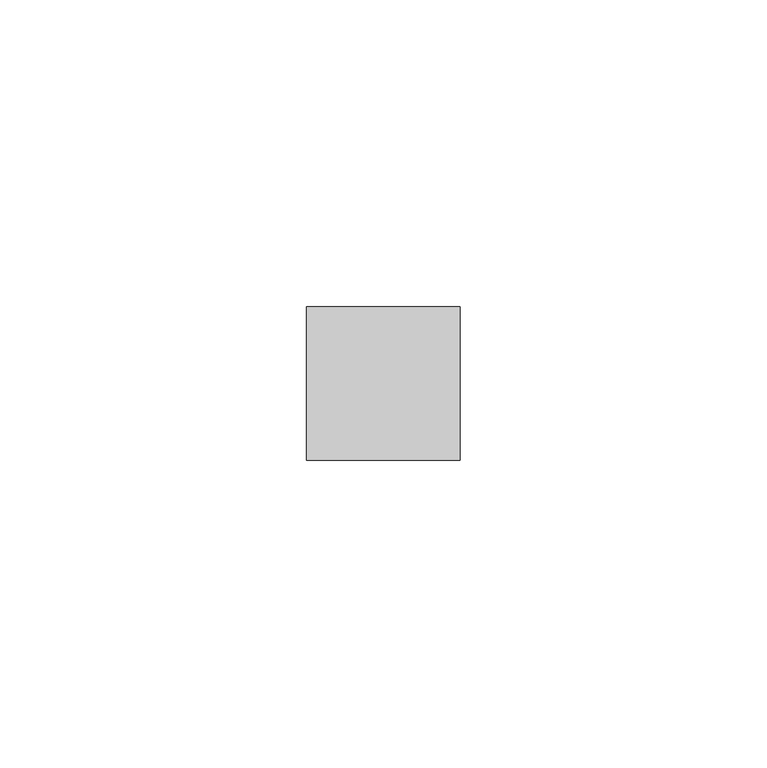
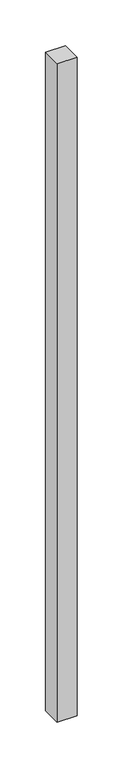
"""IFC4 building model written with IfcOpenShell, lengths in millimetres: member geometry, Obdélníková příčel : VERTI AERO."""

import ifcopenshell
import ifcopenshell.guid

model = None  # the IFC model being written
_history = None  # IfcOwnerHistory: only IFC2X3 demands one
_inside = {}  # id of a spatial element -> (the spatial element, [elements in it])
_under = {}  # id of a project, library or spatial element -> (it, [spatial elements below it])
_declared = {}  # id of a project -> (the project, [libraries it declares])
_typed = {}  # id of a type object -> (the type object, [elements of that type])
_made_of = {}  # id of a material, layer set ... -> (it, [elements and type objects made of it])


def new_model(schema):
    """Start an empty IFC model of exactly this schema.

    Asked for "IFC4X3", IfcOpenShell would pick the latest addendum, in which some entities
    have other attributes; the version numbers below select the first issue.
    IFC2X3 requires an IfcOwnerHistory on every rooted entity: one is made here for all.
    """
    global model, _history
    if schema == "IFC4X3":
        model = ifcopenshell.file(schema_version=(4, 3, 0, 0))
    else:
        model = ifcopenshell.file(schema=schema)
    _inside.clear()
    _under.clear()
    _declared.clear()
    _typed.clear()
    _made_of.clear()
    _history = None
    if model.schema == "IFC2X3":
        org = make("IfcOrganization", Name="unknown")
        user = make(
            "IfcPersonAndOrganization",
            ThePerson=make("IfcPerson", FamilyName="unknown"),
            TheOrganization=org,
        )
        app = make(
            "IfcApplication",
            ApplicationDeveloper=org,
            Version="unknown",
            ApplicationFullName="unknown",
            ApplicationIdentifier="unknown",
        )
        _history = make(
            "IfcOwnerHistory",
            OwningUser=user,
            OwningApplication=app,
            ChangeAction="ADDED",
            CreationDate=0,
        )
    return model


def make(cls, **values):
    """One entity of the class cls with the attributes given. An attribute that is None is left unset."""
    return model.create_entity(
        cls, **{name: value for name, value in values.items() if value is not None}
    )


def rooted(cls, **values):
    """An entity with a GlobalId (a new one), such as an element, a storey or a relation."""
    return make(cls, GlobalId=ifcopenshell.guid.new(), OwnerHistory=_history, **values)


def si_unit(unit_type, name, prefix=None):
    """IfcSIUnit, for example si_unit("LENGTHUNIT", "METRE", prefix="MILLI")."""
    return make("IfcSIUnit", UnitType=unit_type, Prefix=prefix, Name=name)


def assignment(units):
    """IfcUnitAssignment: the units of a project."""
    return None if units is None else make("IfcUnitAssignment", Units=units)


def point(xyz):
    """IfcCartesianPoint."""
    return None if xyz is None else make("IfcCartesianPoint", Coordinates=xyz)


def direction(xyz):
    """IfcDirection."""
    return None if xyz is None else make("IfcDirection", DirectionRatios=xyz)


def frame(location, z_axis=None, x_axis=None):
    """IfcAxis2Placement3D, a coordinate frame: its origin and axes. An axis left out is left unset."""
    return make(
        "IfcAxis2Placement3D",
        Location=point(location),
        Axis=direction(z_axis),
        RefDirection=direction(x_axis),
    )


def origin():
    """The frame at (0, 0, 0) with its axes left unset."""
    return frame((0.0, 0.0, 0.0))


def place(relative_to, where):
    """IfcLocalPlacement: puts the frame where relative to a parent placement (None: the world)."""
    return make(
        "IfcLocalPlacement", PlacementRelTo=relative_to, RelativePlacement=where
    )


def context(
    kind, dimensions, precision=None, world=None, true_north=None, identifier=None
):
    """IfcGeometricRepresentationContext, for example the 3D "Model" context."""
    return make(
        "IfcGeometricRepresentationContext",
        ContextIdentifier=identifier,
        ContextType=kind,
        CoordinateSpaceDimension=dimensions,
        Precision=precision,
        WorldCoordinateSystem=world,
        TrueNorth=true_north,
    )


def project(units=None, contexts=None):
    """IfcProject with its units and contexts."""
    return rooted(
        "IfcProject",
        Name="project",
        RepresentationContexts=contexts,
        UnitsInContext=assignment(units),
    )


def spatial(cls, under=None, at=None, **own):
    """A site, building, storey or space (cls), placed at a placement, below another one or the project."""
    s = rooted(cls, ObjectPlacement=at, **own)
    if under is not None:
        _under.setdefault(under.id(), (under, []))[1].append(s)
    return s


def polyline(points):
    """IfcPolyline through the points."""
    return make("IfcPolyline", Points=[point(p) for p in points])


def outline(outer, holes=None, kind="AREA"):
    """IfcArbitraryClosedProfileDef: a profile drawn as a closed curve; with holes, ...WithVoids."""
    if holes is None:
        return make("IfcArbitraryClosedProfileDef", ProfileType=kind, OuterCurve=outer)
    return make(
        "IfcArbitraryProfileDefWithVoids",
        ProfileType=kind,
        OuterCurve=outer,
        InnerCurves=holes,
    )


def extrude(swept, where, along, depth):
    """IfcExtrudedAreaSolid: the profile swept, set in the frame where, extruded along a direction by depth."""
    return make(
        "IfcExtrudedAreaSolid",
        SweptArea=swept,
        Position=where,
        ExtrudedDirection=direction(along),
        Depth=depth,
    )


def shape(context_of_items, identifier, shape_type, items):
    """IfcShapeRepresentation: the items that make up one representation, for example the "Body"."""
    return make(
        "IfcShapeRepresentation",
        ContextOfItems=context_of_items,
        RepresentationIdentifier=identifier,
        RepresentationType=shape_type,
        Items=items,
    )


def source(mapping_origin, context_of_items, identifier, shape_type, items):
    """IfcRepresentationMap: a shape defined once, which mapped items show again and again."""
    return make(
        "IfcRepresentationMap",
        MappingOrigin=mapping_origin,
        MappedRepresentation=shape(context_of_items, identifier, shape_type, items),
    )


def transform(
    local_origin,
    x_axis=None,
    y_axis=None,
    z_axis=None,
    scale=None,
    scale2=None,
    scale3=None,
    uniform=True,
):
    """IfcCartesianTransformationOperator3D, or its non-uniform kind. x_axis, y_axis, z_axis: its Axis1, 2, 3."""
    if uniform:
        return make(
            "IfcCartesianTransformationOperator3D",
            Axis1=direction(x_axis),
            Axis2=direction(y_axis),
            LocalOrigin=point(local_origin),
            Scale=scale,
            Axis3=direction(z_axis),
        )
    return make(
        "IfcCartesianTransformationOperator3DnonUniform",
        Axis1=direction(x_axis),
        Axis2=direction(y_axis),
        LocalOrigin=point(local_origin),
        Scale=scale,
        Axis3=direction(z_axis),
        Scale2=scale2,
        Scale3=scale3,
    )


def mapped(mapping_source, mapping_target):
    """IfcMappedItem: shows the shape of a source again, moved by a transform."""
    return make(
        "IfcMappedItem", MappingSource=mapping_source, MappingTarget=mapping_target
    )


def made_of(thing, what):
    """Note that an element or type object is made of a material, layer set ...; save() writes the relation."""
    if what is not None:
        _made_of.setdefault(what.id(), (what, []))[1].append(thing)
    return thing


def element(
    cls,
    number,
    at=None,
    inside=None,
    cuts=None,
    type_object=None,
    material=None,
    context=None,
    identifier="Body",
    shape_type=None,
    held_by="IfcProductDefinitionShape",
    body=None,
    shapes=None,
    **own,
):
    """One element of the class cls, such as IfcWall. Its Tag is "e" and its number.

    at: its placement. inside: the storey or other place that contains it. cuts: it is an
    opening in that element (IfcRelVoidsElement). A single representation is given by context,
    identifier, shape_type and body (its items); several are given by shapes. held_by: the class
    of the entity that holds the representations. save() writes the other relations.
    """
    e = rooted(cls, Tag="e%d" % number, ObjectPlacement=at, **own)
    if body is not None:
        shapes = [shape(context, identifier, shape_type, body)]
    if shapes is not None:
        e.Representation = make(held_by, Representations=shapes)
    if inside is not None:
        _inside.setdefault(inside.id(), (inside, []))[1].append(e)
    if cuts is not None:
        rooted(
            "IfcRelVoidsElement", RelatingBuildingElement=cuts, RelatedOpeningElement=e
        )
    if type_object is not None:
        _typed.setdefault(type_object.id(), (type_object, []))[1].append(e)
    return made_of(e, material)


def aggregate(whole, parts):
    """IfcRelAggregates: a whole, such as a stair, and the parts it consists of."""
    return rooted("IfcRelAggregates", RelatingObject=whole, RelatedObjects=parts)


def save(model, path):
    """Write the relations noted so far, then the file.

    IfcRelAggregates (storeys below a building ...), IfcRelContainedInSpatialStructure (elements
    in a storey), IfcRelDefinesByType, IfcRelAssociatesMaterial and IfcRelDeclares: one each for
    every whole, place, type object, material and project.
    """
    for whole, parts in _under.values():
        aggregate(whole, parts)
    for where, things in _inside.values():
        rooted(
            "IfcRelContainedInSpatialStructure",
            RelatedElements=things,
            RelatingStructure=where,
        )
    for kind, things in _typed.values():
        rooted("IfcRelDefinesByType", RelatedObjects=things, RelatingType=kind)
    for what, things in _made_of.values():
        rooted("IfcRelAssociatesMaterial", RelatedObjects=things, RelatingMaterial=what)
    for by, libraries in _declared.values():
        rooted("IfcRelDeclares", RelatingContext=by, RelatedDefinitions=libraries)
    model.write(path)


def member_78357b04(model_context):
    return source(origin(), model_context, "Body", "SweptSolid", [
        extrude(outline(polyline([(0.0, 12.5), (0.0, -12.5), (-25.0, -12.5), (-25.0, 12.5), (0.0, 12.5)])), frame((0.0, 0.0, -875.0), z_axis=(0.0, 0.0, 1.0), x_axis=(1.0, 0.0, 0.0)), (0.0, 0.0, 1.0), 875.0),
    ])


if __name__ == "__main__":
    model = new_model("IFC4")
    model_context = context("Model", 3, world=origin())
    ifc_project = project(units=[si_unit("LENGTHUNIT", "METRE", prefix="MILLI")], contexts=[model_context])
    site = spatial("IfcSite", under=ifc_project)
    building = spatial("IfcBuilding", under=site)
    placement = place(None, origin())
    member_shape = member_78357b04(model_context)
    element("IfcMember", 1, ObjectType="Obdélníková příčel : VERTI AERO", at=placement, inside=building, context=model_context, shape_type="MappedRepresentation", body=[
        mapped(member_shape, transform((0.0, 0.0, 0.0), x_axis=(1.0, 0.0, 0.0), y_axis=(0.0, 1.0, 0.0), z_axis=(0.0, 0.0, 1.0))),
    ])
    save(model, "model.ifc")
